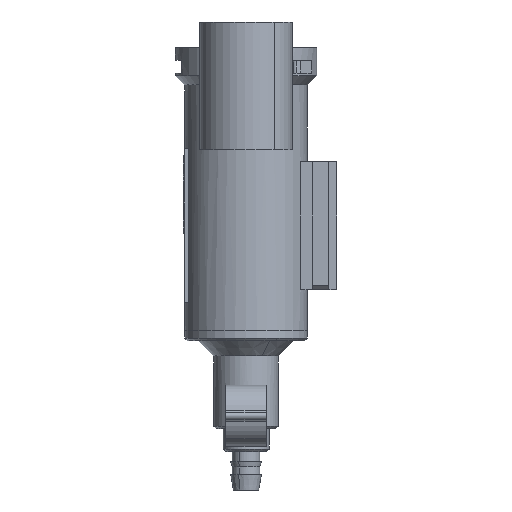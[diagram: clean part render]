
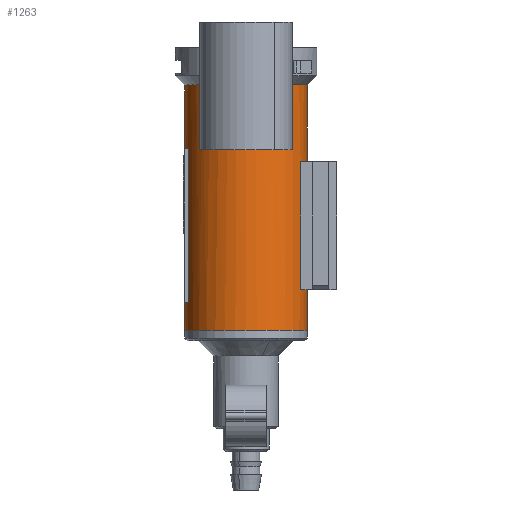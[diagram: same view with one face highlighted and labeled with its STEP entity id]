
A CAD part, front view. The second image highlights one B-rep face of the part: STEP entity #1263.
In plain terms, the highlighted cylindrical face has radius 12 mm (diameter 24 mm), a partial arc.
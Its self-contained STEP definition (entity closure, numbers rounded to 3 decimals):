
#1148=AXIS2_PLACEMENT_3D('Cylinder Axis2P3D',#1145,#1146,#1147) ;
#1152=AXIS2_PLACEMENT_3D('Circle Axis2P3D',#1150,#1151,$) ;
#1157=AXIS2_PLACEMENT_3D('Circle Axis2P3D',#1155,#1156,$) ;
#1164=AXIS2_PLACEMENT_3D('Circle Axis2P3D',#1162,#1163,$) ;
#1178=AXIS2_PLACEMENT_3D('Circle Axis2P3D',#1176,#1177,$) ;
#1192=AXIS2_PLACEMENT_3D('Circle Axis2P3D',#1190,#1191,$) ;
#1197=AXIS2_PLACEMENT_3D('Circle Axis2P3D',#1195,#1196,$) ;
#1211=AXIS2_PLACEMENT_3D('Circle Axis2P3D',#1209,#1210,$) ;
#1231=AXIS2_PLACEMENT_3D('Circle Axis2P3D',#1229,#1230,$) ;
#1247=AXIS2_PLACEMENT_3D('Circle Axis2P3D',#1245,#1246,$) ;
#893=CARTESIAN_POINT('Line Origine',(-12.,0.,26.15)) ;
#897=CARTESIAN_POINT('Vertex',(-12.,0.,37.5)) ;
#899=CARTESIAN_POINT('Vertex',(-12.,0.,50.)) ;
#906=CARTESIAN_POINT('Vertex',(12.,0.,50.)) ;
#909=CARTESIAN_POINT('Line Origine',(12.,0.,26.15)) ;
#913=CARTESIAN_POINT('Vertex',(12.,0.,2.)) ;
#920=CARTESIAN_POINT('Vertex',(-12.,0.,2.)) ;
#923=CARTESIAN_POINT('Line Origine',(-12.,0.,26.15)) ;
#927=CARTESIAN_POINT('Vertex',(-12.,0.,7.5)) ;
#1145=CARTESIAN_POINT('Axis2P3D Location',(0.,0.,26.15)) ;
#1150=CARTESIAN_POINT('Axis2P3D Location',(0.,0.,2.)) ;
#1155=CARTESIAN_POINT('Axis2P3D Location',(0.,0.,50.)) ;
#1159=CARTESIAN_POINT('Vertex',(6.,-10.392,50.)) ;
#1162=CARTESIAN_POINT('Axis2P3D Location',(0.,0.,50.)) ;
#1166=CARTESIAN_POINT('Vertex',(5.5,-10.665,50.)) ;
#1169=CARTESIAN_POINT('Line Origine',(5.5,-10.665,26.15)) ;
#1173=CARTESIAN_POINT('Vertex',(5.5,-10.665,37.3)) ;
#1176=CARTESIAN_POINT('Axis2P3D Location',(0.,0.,37.3)) ;
#1180=CARTESIAN_POINT('Vertex',(-5.5,-10.665,37.3)) ;
#1183=CARTESIAN_POINT('Line Origine',(-5.5,-10.665,26.15)) ;
#1187=CARTESIAN_POINT('Vertex',(-5.5,-10.665,50.)) ;
#1190=CARTESIAN_POINT('Axis2P3D Location',(0.,0.,50.)) ;
#1195=CARTESIAN_POINT('Axis2P3D Location',(0.,0.,37.5)) ;
#1199=CARTESIAN_POINT('Vertex',(-11.314,-4.,37.5)) ;
#1202=CARTESIAN_POINT('Line Origine',(-11.314,-4.,26.15)) ;
#1206=CARTESIAN_POINT('Vertex',(-11.314,-4.,7.5)) ;
#1209=CARTESIAN_POINT('Axis2P3D Location',(0.,0.,7.5)) ;
#1229=CARTESIAN_POINT('Axis2P3D Location',(0.,0.,10.)) ;
#1233=CARTESIAN_POINT('Vertex',(11.715,-2.6,10.)) ;
#1235=CARTESIAN_POINT('Vertex',(10.665,-5.5,10.)) ;
#1238=CARTESIAN_POINT('Line Origine',(10.665,-5.5,26.15)) ;
#1242=CARTESIAN_POINT('Vertex',(10.665,-5.5,35.)) ;
#1245=CARTESIAN_POINT('Axis2P3D Location',(0.,0.,35.)) ;
#1249=CARTESIAN_POINT('Vertex',(11.715,-2.6,35.)) ;
#1252=CARTESIAN_POINT('Line Origine',(11.715,-2.6,26.15)) ;
#894=DIRECTION('Vector Direction',(0.,0.,1.)) ;
#910=DIRECTION('Vector Direction',(0.,0.,1.)) ;
#924=DIRECTION('Vector Direction',(0.,0.,1.)) ;
#1146=DIRECTION('Axis2P3D Direction',(0.,0.,1.)) ;
#1147=DIRECTION('Axis2P3D XDirection',(-1.,0.,0.)) ;
#1151=DIRECTION('Axis2P3D Direction',(0.,0.,1.)) ;
#1156=DIRECTION('Axis2P3D Direction',(0.,0.,1.)) ;
#1163=DIRECTION('Axis2P3D Direction',(0.,0.,1.)) ;
#1170=DIRECTION('Vector Direction',(0.,0.,1.)) ;
#1177=DIRECTION('Axis2P3D Direction',(0.,0.,1.)) ;
#1184=DIRECTION('Vector Direction',(0.,0.,1.)) ;
#1191=DIRECTION('Axis2P3D Direction',(0.,0.,1.)) ;
#1196=DIRECTION('Axis2P3D Direction',(0.,0.,1.)) ;
#1203=DIRECTION('Vector Direction',(0.,0.,1.)) ;
#1210=DIRECTION('Axis2P3D Direction',(0.,0.,1.)) ;
#1230=DIRECTION('Axis2P3D Direction',(0.,0.,1.)) ;
#1239=DIRECTION('Vector Direction',(0.,0.,1.)) ;
#1246=DIRECTION('Axis2P3D Direction',(0.,0.,1.)) ;
#1253=DIRECTION('Vector Direction',(0.,0.,1.)) ;
#895=VECTOR('Line Direction',#894,1.) ;
#911=VECTOR('Line Direction',#910,1.) ;
#925=VECTOR('Line Direction',#924,1.) ;
#1171=VECTOR('Line Direction',#1170,1.) ;
#1185=VECTOR('Line Direction',#1184,1.) ;
#1204=VECTOR('Line Direction',#1203,1.) ;
#1240=VECTOR('Line Direction',#1239,1.) ;
#1254=VECTOR('Line Direction',#1253,1.) ;
#1215=ORIENTED_EDGE('',*,*,#929,.F.) ;
#1216=ORIENTED_EDGE('',*,*,#1154,.F.) ;
#1217=ORIENTED_EDGE('',*,*,#915,.T.) ;
#1218=ORIENTED_EDGE('',*,*,#1161,.T.) ;
#1219=ORIENTED_EDGE('',*,*,#1168,.T.) ;
#1220=ORIENTED_EDGE('',*,*,#1175,.T.) ;
#1221=ORIENTED_EDGE('',*,*,#1182,.F.) ;
#1222=ORIENTED_EDGE('',*,*,#1189,.F.) ;
#1223=ORIENTED_EDGE('',*,*,#1194,.T.) ;
#1224=ORIENTED_EDGE('',*,*,#901,.F.) ;
#1225=ORIENTED_EDGE('',*,*,#1201,.F.) ;
#1226=ORIENTED_EDGE('',*,*,#1208,.F.) ;
#1227=ORIENTED_EDGE('',*,*,#1213,.T.) ;
#1258=ORIENTED_EDGE('',*,*,#1237,.T.) ;
#1259=ORIENTED_EDGE('',*,*,#1244,.T.) ;
#1260=ORIENTED_EDGE('',*,*,#1251,.F.) ;
#1261=ORIENTED_EDGE('',*,*,#1256,.F.) ;
#1262=FACE_BOUND('',#1257,.T.) ;
#1263=ADVANCED_FACE('\X2\96F64EF651E04F554F53\X0\',(#1228,#1262),#1149,.T.) ;
#1153=CIRCLE('generated circle',#1152,12.) ;
#1158=CIRCLE('generated circle',#1157,12.) ;
#1165=CIRCLE('generated circle',#1164,12.) ;
#1179=CIRCLE('generated circle',#1178,12.) ;
#1193=CIRCLE('generated circle',#1192,12.) ;
#1198=CIRCLE('generated circle',#1197,12.) ;
#1212=CIRCLE('generated circle',#1211,12.) ;
#1232=CIRCLE('generated circle',#1231,12.) ;
#1248=CIRCLE('generated circle',#1247,12.) ;
#1149=CYLINDRICAL_SURFACE('generated cylinder',#1148,12.) ;
#901=EDGE_CURVE('',#898,#900,#896,.T.) ;
#915=EDGE_CURVE('',#914,#907,#912,.T.) ;
#929=EDGE_CURVE('',#921,#928,#926,.T.) ;
#1154=EDGE_CURVE('',#914,#921,#1153,.F.) ;
#1161=EDGE_CURVE('',#907,#1160,#1158,.F.) ;
#1168=EDGE_CURVE('',#1160,#1167,#1165,.F.) ;
#1175=EDGE_CURVE('',#1167,#1174,#1172,.F.) ;
#1182=EDGE_CURVE('',#1181,#1174,#1179,.T.) ;
#1189=EDGE_CURVE('',#1188,#1181,#1186,.F.) ;
#1194=EDGE_CURVE('',#1188,#900,#1193,.F.) ;
#1201=EDGE_CURVE('',#1200,#898,#1198,.F.) ;
#1208=EDGE_CURVE('',#1207,#1200,#1205,.T.) ;
#1213=EDGE_CURVE('',#1207,#928,#1212,.F.) ;
#1237=EDGE_CURVE('',#1234,#1236,#1232,.F.) ;
#1244=EDGE_CURVE('',#1236,#1243,#1241,.T.) ;
#1251=EDGE_CURVE('',#1250,#1243,#1248,.F.) ;
#1256=EDGE_CURVE('',#1234,#1250,#1255,.T.) ;
#1214=EDGE_LOOP('',(#1215,#1216,#1217,#1218,#1219,#1220,#1221,#1222,#1223,#1224,#1225,#1226,#1227)) ;
#1257=EDGE_LOOP('',(#1258,#1259,#1260,#1261)) ;
#1228=FACE_OUTER_BOUND('',#1214,.T.) ;
#896=LINE('Line',#893,#895) ;
#912=LINE('Line',#909,#911) ;
#926=LINE('Line',#923,#925) ;
#1172=LINE('Line',#1169,#1171) ;
#1186=LINE('Line',#1183,#1185) ;
#1205=LINE('Line',#1202,#1204) ;
#1241=LINE('Line',#1238,#1240) ;
#1255=LINE('Line',#1252,#1254) ;
#898=VERTEX_POINT('',#897) ;
#900=VERTEX_POINT('',#899) ;
#907=VERTEX_POINT('',#906) ;
#914=VERTEX_POINT('',#913) ;
#921=VERTEX_POINT('',#920) ;
#928=VERTEX_POINT('',#927) ;
#1160=VERTEX_POINT('',#1159) ;
#1167=VERTEX_POINT('',#1166) ;
#1174=VERTEX_POINT('',#1173) ;
#1181=VERTEX_POINT('',#1180) ;
#1188=VERTEX_POINT('',#1187) ;
#1200=VERTEX_POINT('',#1199) ;
#1207=VERTEX_POINT('',#1206) ;
#1234=VERTEX_POINT('',#1233) ;
#1236=VERTEX_POINT('',#1235) ;
#1243=VERTEX_POINT('',#1242) ;
#1250=VERTEX_POINT('',#1249) ;
